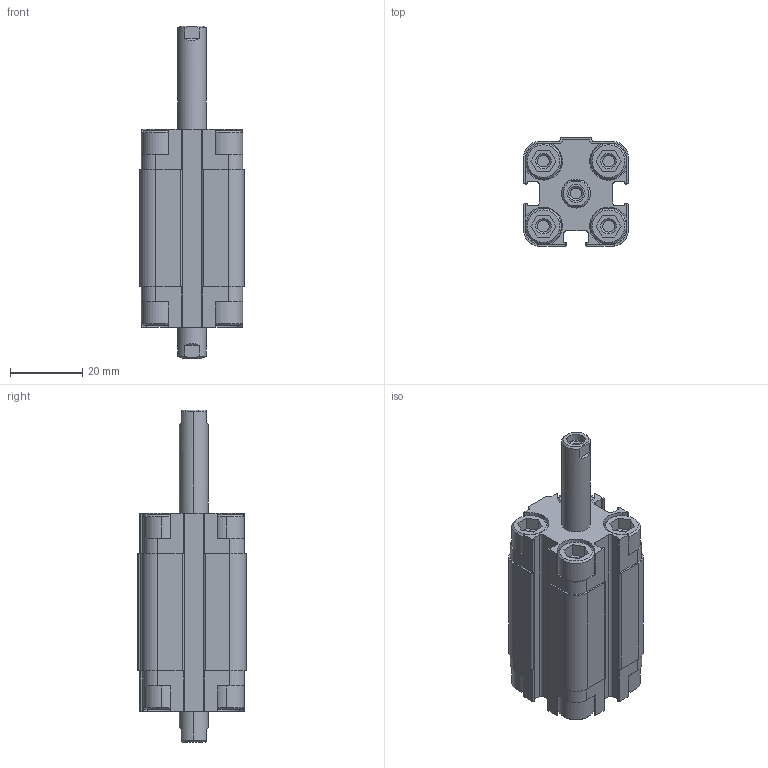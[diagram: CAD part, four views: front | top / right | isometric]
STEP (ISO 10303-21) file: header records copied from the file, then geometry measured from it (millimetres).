
FILE_DESCRIPTION (( 'STEP AP203' ), '1' );
FILE_NAME ('QJ0160020A.step', '2012-10-18T17:14:24', ( '' ), ( '' ), 'SwSTEP 2.0', 'SolidWorks 2012', '' );
FILE_SCHEMA (( 'CONFIG_CONTROL_DESIGN' ));
Length unit declared in the file: millimetre
Products named in the file (1): QJ0160020A
Bounding box: 29 x 30 x 91.8 mm (x, y, z)
Volume: 38983.8 mm3; surface area: 13763.5 mm2
Topology: 1 solids, 1 shells, 360 faces, 938 edges, 604 vertices
Faces by surface type: plane 202, cylinder 112, cone 46
Entity records: 11099 total; most frequent: CARTESIAN_POINT 1963, DIRECTION 1936, ORIENTED_EDGE 1876, EDGE_CURVE 938, AXIS2_PLACEMENT_3D 657, LINE 622, VECTOR 622, VERTEX_POINT 604
